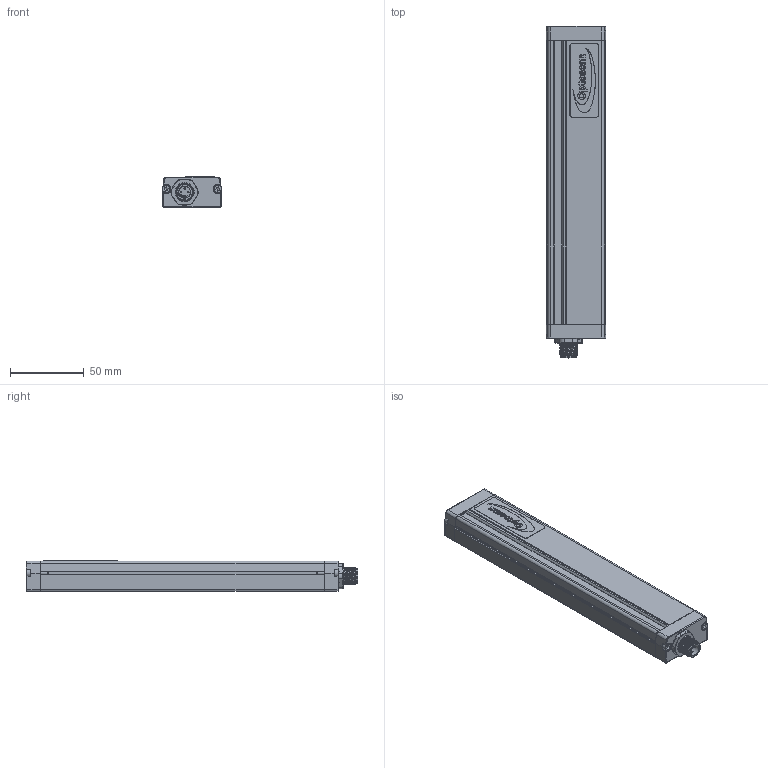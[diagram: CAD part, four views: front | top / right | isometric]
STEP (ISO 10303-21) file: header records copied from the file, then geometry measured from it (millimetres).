
FILE_DESCRIPTION(/* description */ (''),/* implementation_level */ '2;1');
FILE_NAME(/* name */ 'C:\Users\andre\SynologyDrive\Optoscan\Libreria Componenti\00 - Barriere\Polaris sorgente\Polaris_190_TX.stp',/* time_stamp */ '2021-06-04T10:53:18+02:00',/* author */ ('andre'),/* organization */ (''),/* preprocessor_version */ 'ST-DEVELOPER v18',/* originating_system */ 'Autodesk Inventor 2020',/* authorisation */ '');
FILE_SCHEMA (('AUTOMOTIVE_DESIGN { 1 0 10303 214 3 1 1 }'));
Length unit declared in the file: millimetre
Products named in the file (1): Polaris_190_TX
Bounding box: 40.5 x 224.8 x 20.75 mm (x, y, z)
Volume: 48625.5 mm3; surface area: 59607.8 mm2
Topology: 1 solids, 1 shells, 743 faces, 2072 edges, 1332 vertices
Faces by surface type: plane 332, cylinder 208, bspline 115, torus 74, cone 8, sphere 6
Full cylindrical faces by diameter (mm): 1 x8, 2.459 x4, 2.5 x4, 3 x4, 3.5 x4, 5.5 x4, 8 x1, 10.5 x2, 11.75 x9, 12 x1, 12.3 x3, 14.5 x1, 16.7 x1, 17.5 x1
Entity records: 30714 total; most frequent: CARTESIAN_POINT 11308, ORIENTED_EDGE 4130, DIRECTION 3590, EDGE_CURVE 2065, VERTEX_POINT 1333, AXIS2_PLACEMENT_3D 1263, LINE 1064, VECTOR 1064
